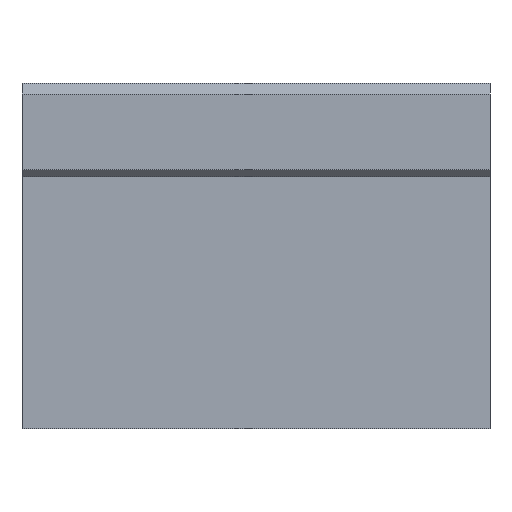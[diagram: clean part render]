
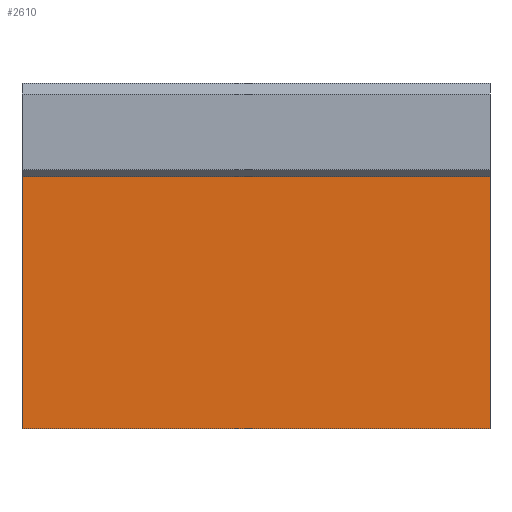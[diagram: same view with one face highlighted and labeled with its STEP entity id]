
A CAD part, front view. The second image highlights one B-rep face of the part: STEP entity #2610.
In plain terms, the highlighted planar face has unit normal (0, -1, 0).
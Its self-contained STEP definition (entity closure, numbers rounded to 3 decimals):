
#2547=CARTESIAN_POINT('',(0.0,-37.0,15.0));
#2548=VERTEX_POINT('',#2547);
#2555=CARTESIAN_POINT('',(65.0,-37.0,15.0));
#2556=VERTEX_POINT('',#2555);
#2557=CARTESIAN_POINT('',(0.0,-37.0,15.0));
#2558=DIRECTION('',(1.0,0.0,0.0));
#2559=VECTOR('',#2558,65.0);
#2560=LINE('',#2557,#2559);
#2561=EDGE_CURVE('',#2548,#2556,#2560,.T.);
#2580=CARTESIAN_POINT('',(0.0,-37.0,-20.));
#2581=DIRECTION('',(0.0,-1.0,0.0));
#2582=DIRECTION('',(0.0,0.0,-1.0));
#2583=AXIS2_PLACEMENT_3D('',#2580,#2581,#2582);
#2584=PLANE('',#2583);
#2585=ORIENTED_EDGE('',*,*,#2561,.F.);
#2586=CARTESIAN_POINT('',(0.0,-37.0,-20.));
#2587=VERTEX_POINT('',#2586);
#2588=CARTESIAN_POINT('',(0.0,-37.0,15.0));
#2589=DIRECTION('',(0.0,0.0,-1.0));
#2590=VECTOR('',#2589,35.);
#2591=LINE('',#2588,#2590);
#2592=EDGE_CURVE('',#2548,#2587,#2591,.T.);
#2593=ORIENTED_EDGE('',*,*,#2592,.T.);
#2594=CARTESIAN_POINT('',(65.0,-37.0,-20.));
#2595=VERTEX_POINT('',#2594);
#2596=CARTESIAN_POINT('',(0.0,-37.0,-20.));
#2597=DIRECTION('',(1.0,0.0,0.0));
#2598=VECTOR('',#2597,65.0);
#2599=LINE('',#2596,#2598);
#2600=EDGE_CURVE('',#2587,#2595,#2599,.T.);
#2601=ORIENTED_EDGE('',*,*,#2600,.T.);
#2602=CARTESIAN_POINT('',(65.0,-37.0,-20.));
#2603=DIRECTION('',(0.0,0.0,1.0));
#2604=VECTOR('',#2603,35.);
#2605=LINE('',#2602,#2604);
#2606=EDGE_CURVE('',#2595,#2556,#2605,.T.);
#2607=ORIENTED_EDGE('',*,*,#2606,.T.);
#2608=EDGE_LOOP('',(#2585,#2593,#2601,#2607));
#2609=FACE_OUTER_BOUND('',#2608,.T.);
#2610=ADVANCED_FACE('',(#2609),#2584,.T.);
